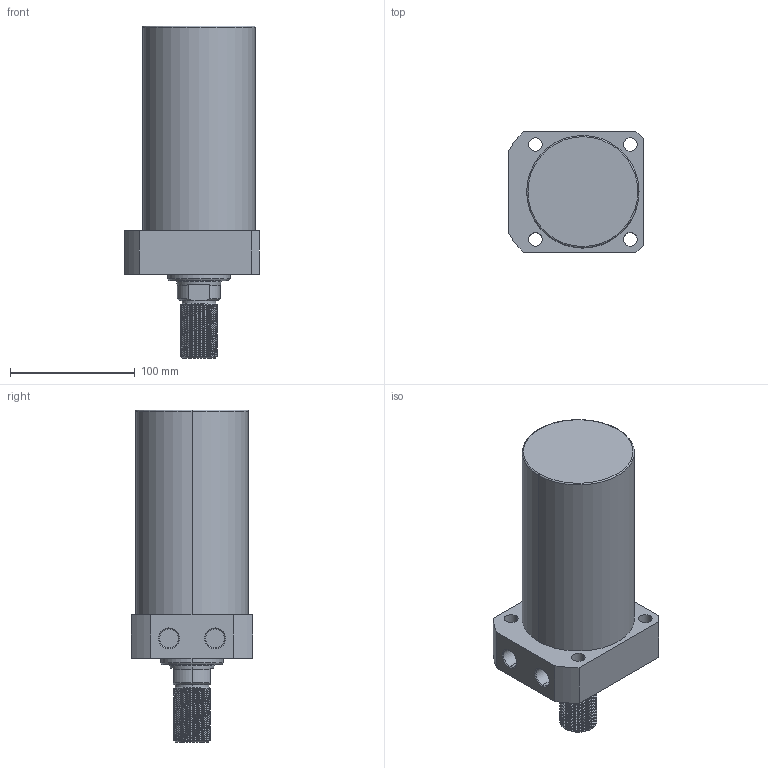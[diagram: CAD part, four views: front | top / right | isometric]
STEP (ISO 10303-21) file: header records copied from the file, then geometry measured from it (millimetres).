
FILE_DESCRIPTION (( 'STEP AP214' ), '1' );
FILE_NAME ('CLLR-090CT-120.STEP', '2020-01-10T02:41:05', ( 'Windows' ), ( 'Microsoft' ), 'SwSTEP 2.0', 'SolidWorks 2015', '' );
FILE_SCHEMA (( 'AUTOMOTIVE_DESIGN' ));
Length unit declared in the file: millimetre
Products named in the file (1): CLLR-090CT-120
Bounding box: 108 x 97 x 266 mm (x, y, z)
Volume: 1437186.1 mm3; surface area: 95385.6 mm2
Topology: 1 solids, 1 shells, 125 faces, 331 edges, 216 vertices
Faces by surface type: cylinder 85, plane 20, cone 16, torus 2, bspline 2
Entity records: 7039 total; most frequent: CARTESIAN_POINT 4143, ORIENTED_EDGE 662, DIRECTION 530, EDGE_CURVE 331, VERTEX_POINT 216, AXIS2_PLACEMENT_3D 204, EDGE_LOOP 141, ADVANCED_FACE 125
